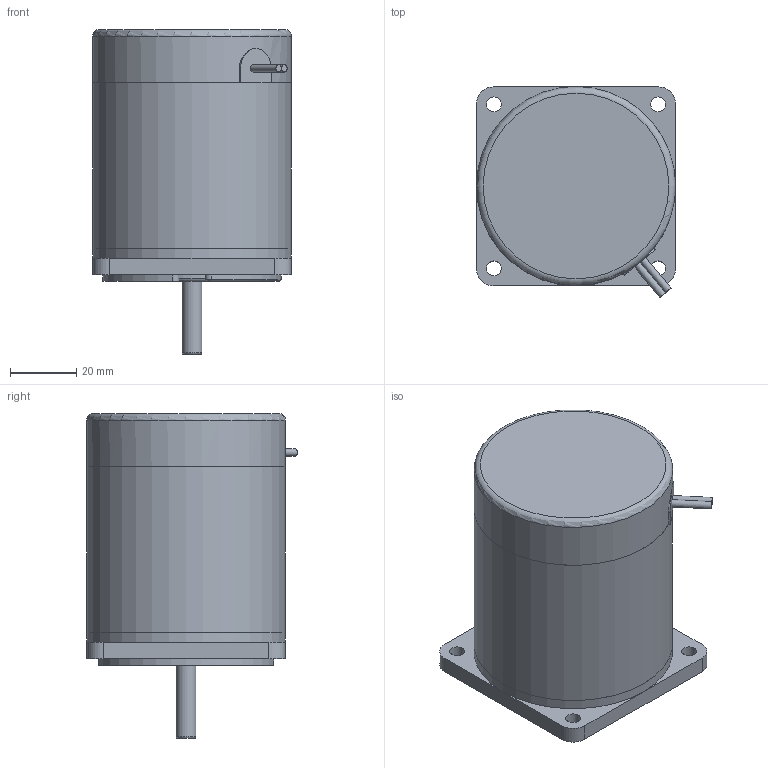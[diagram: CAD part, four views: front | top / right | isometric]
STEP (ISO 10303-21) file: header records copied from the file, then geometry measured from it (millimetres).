
FILE_DESCRIPTION((''),'2;1');
FILE_NAME('D:\연구개발부2팀 1파트\10_진행업무\3D_60각\S6D10-ㅁS.stp','2013-06-05T16:36:47',('song'),(''),'Autodesk Inventor 2011','Autodesk Inventor 2011','');
FILE_SCHEMA(('AUTOMOTIVE_DESIGN { 1 0 10303 214 1 1 1 1 }'));
Length unit declared in the file: millimetre
Products named in the file (9): S6D10; REAR HOUSING ASS'Y(신형); REAR HOUSING(신형); cord bush; PIPE HOUSING; FRONT HOUSING(신형); NF EN ISO 7045 - Z M4 x 40 - 4.8 - Z; AS 1968 4; shaft_straight
Assembly tree (9 placements, depth 2):
  S6D10
    PIPE HOUSING
    FRONT HOUSING(신형)
    NF EN ISO 7045 - Z M4 x 40 - 4.8 - Z  x2
    AS 1968 4  x2
    shaft_straight
  REAR HOUSING ASS'Y(신형)
    REAR HOUSING(신형)
    cord bush
Bounding box: 60 x 63.59 x 98 mm (x, y, z)
Volume: 214563.8 mm3; surface area: 36555.9 mm2
Topology: 9 solids, 9 shells, 169 faces, 399 edges, 255 vertices
Faces by surface type: plane 77, cylinder 39, cone 38, torus 13, sphere 2
Full cylindrical faces by diameter (mm): 2.2 x2, 3.621 x2, 4 x2, 4.2 x2, 4.5 x4, 6 x1, 8 x3, 9 x1, 30 x1, 60 x3
Entity records: 3909 total; most frequent: CARTESIAN_POINT 941, DIRECTION 613, ORIENTED_EDGE 500, AXIS2_PLACEMENT_3D 271, EDGE_CURVE 250, VERTEX_POINT 175, EDGE_LOOP 168, FACE_OUTER_BOUND 121
